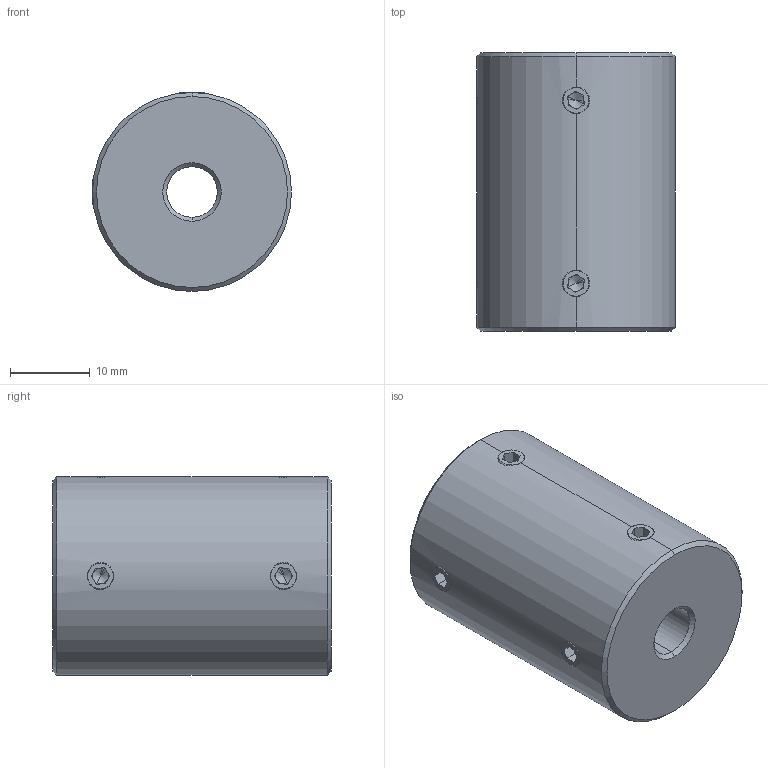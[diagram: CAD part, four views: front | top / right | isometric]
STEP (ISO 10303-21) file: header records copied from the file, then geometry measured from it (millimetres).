
FILE_DESCRIPTION (( 'STEP AP214' ), '1' );
FILE_NAME ('LL-D-D25L35-6.35-6.35½¨Ä£.STEP', '2022-07-23T00:38:08', ( '' ), ( '' ), 'SwSTEP 2.0', 'SolidWorks 2022', '' );
FILE_SCHEMA (( 'AUTOMOTIVE_DESIGN' ));
Length unit declared in the file: millimetre
Products named in the file (1): LL-D-D25L35-6.35-6.35膘耀
Bounding box: 25 x 35 x 25 mm (x, y, z)
Volume: 15836.3 mm3; surface area: 4604.2 mm2
Topology: 1 solids, 1 shells, 110 faces, 280 edges, 172 vertices
Faces by surface type: plane 58, cone 32, cylinder 20
Entity records: 3638 total; most frequent: CARTESIAN_POINT 995, ORIENTED_EDGE 544, DIRECTION 542, EDGE_CURVE 272, AXIS2_PLACEMENT_3D 199, VERTEX_POINT 172, LINE 144, VECTOR 144
